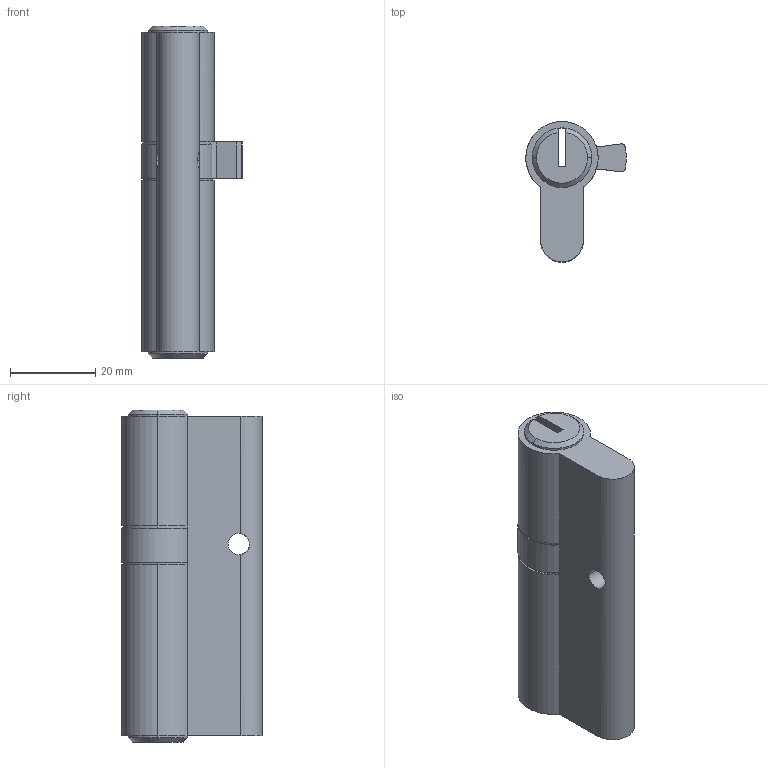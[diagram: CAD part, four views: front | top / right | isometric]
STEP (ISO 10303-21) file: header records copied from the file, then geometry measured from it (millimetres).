
FILE_DESCRIPTION (( 'STEP AP214' ), '1' );
FILE_NAME ('TPL-H-EU-518-L 29Oct2024.STEP', '2024-10-29T22:25:11', ( '' ), ( '' ), 'SwSTEP 2.0', 'SolidWorks 2023', '' );
FILE_SCHEMA (( 'AUTOMOTIVE_DESIGN' ));
Length unit declared in the file: millimetre
Products named in the file (1): TPL-H-EU-518-L 29Oct2024
Bounding box: 23.58 x 33 x 78 mm (x, y, z)
Volume: 27883.4 mm3; surface area: 9158.8 mm2
Topology: 1 solids, 1 shells, 51 faces, 141 edges, 88 vertices
Faces by surface type: cylinder 29, plane 16, cone 6
Entity records: 1740 total; most frequent: CARTESIAN_POINT 357, DIRECTION 307, ORIENTED_EDGE 282, EDGE_CURVE 141, AXIS2_PLACEMENT_3D 122, VERTEX_POINT 88, CIRCLE 70, LINE 63
